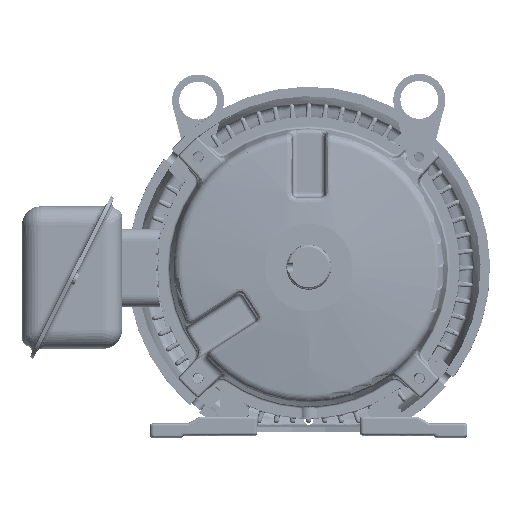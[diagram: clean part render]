
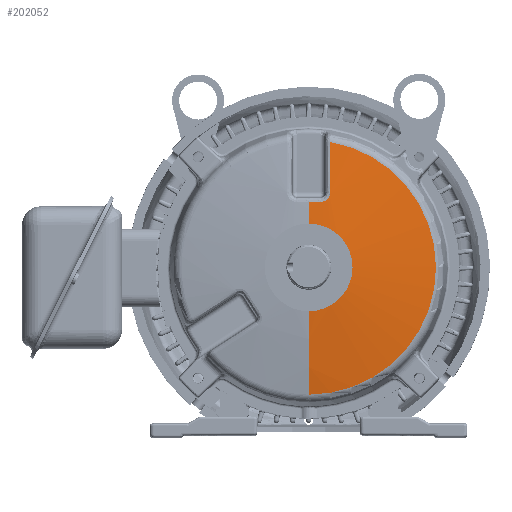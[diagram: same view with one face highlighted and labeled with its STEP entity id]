
A CAD part, top view. The second image highlights one B-rep face of the part: STEP entity #202052.
In plain terms, the highlighted spherical face has radius 533.4 mm.
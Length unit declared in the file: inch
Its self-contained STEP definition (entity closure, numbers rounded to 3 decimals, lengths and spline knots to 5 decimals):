
#190656=CARTESIAN_POINT('',(0.,0.,19.84313));
#190657=DIRECTION('',(-1.,0.,0.));
#190658=DIRECTION('',(0.,-0.055,-0.998));
#190659=AXIS2_PLACEMENT_3D('',#190656,#190657,#190658);
#190661=CARTESIAN_POINT('',(0.,0.,-1.125));
#190662=DIRECTION('',(0.,0.,1.));
#190663=DIRECTION('',(0.,1.,0.));
#190664=AXIS2_PLACEMENT_3D('',#190661,#190662,#190663);
#190666=CARTESIAN_POINT('',(0.,0.,19.84313));
#190667=DIRECTION('',(1.,0.,0.));
#190668=DIRECTION('',(0.,0.055,-0.998));
#190669=AXIS2_PLACEMENT_3D('',#190666,#190667,#190668);
#190671=CARTESIAN_POINT('',(-0.56293,3.30842,
-0.88698));
#190672=CARTESIAN_POINT('',(-0.56316,3.25217,
-0.89595));
#190673=CARTESIAN_POINT('',(-0.56364,3.13453,
-0.91424));
#190674=CARTESIAN_POINT('',(-0.56437,2.94373,
-0.94219));
#190675=CARTESIAN_POINT('',(-0.56512,2.73546,
-0.97066));
#190676=CARTESIAN_POINT('',(-0.56587,2.50758,
-0.99939));
#190677=CARTESIAN_POINT('',(-0.56662,2.25878,
-1.0279));
#190678=CARTESIAN_POINT('',(-0.56711,2.07471,
-1.04666));
#190679=CARTESIAN_POINT('',(-0.56735,1.97872,
-1.05574));
#190696=CARTESIAN_POINT('',(-0.56735,1.97872,
-1.05574));
#190697=CARTESIAN_POINT('',(-0.5674,1.95776,
-1.05772));
#190698=CARTESIAN_POINT('',(-0.56252,1.91767,
-1.06159));
#190699=CARTESIAN_POINT('',(-0.54089,1.86042,
-1.06733));
#190700=CARTESIAN_POINT('',(-0.50861,1.81309,
-1.0723));
#190701=CARTESIAN_POINT('',(-0.46841,1.77542,
-1.07646));
#190702=CARTESIAN_POINT('',(-0.42204,1.74774,
-1.07978));
#190703=CARTESIAN_POINT('',(-0.37063,1.73054,
-1.08218));
#190704=CARTESIAN_POINT('',(-0.3351,1.72659,
-1.08309));
#190705=CARTESIAN_POINT('',(-0.31666,1.72659,
-1.08337));
#190723=CARTESIAN_POINT('',(-0.31666,1.72659,
-1.08337));
#190724=CARTESIAN_POINT('',(-0.28144,1.72658,
-1.08391));
#190725=CARTESIAN_POINT('',(-0.21127,1.72655,
-1.0848));
#190726=CARTESIAN_POINT('',(-0.10538,1.72653,
-1.0856));
#190727=CARTESIAN_POINT('',(-0.03522,1.72653,
-1.08578));
#190728=CARTESIAN_POINT('',(0.,1.72653,-1.08578));
#190939=CARTESIAN_POINT('',(0.,0.,-0.88698));
#190940=DIRECTION('',(0.,0.,1.));
#190941=DIRECTION('',(-0.168,0.986,0.));
#190942=AXIS2_PLACEMENT_3D('',#190939,#190940,#190941);
#200919=CARTESIAN_POINT('',(0.,1.1565,-1.125));
#200920=CARTESIAN_POINT('',(0.,-1.1565,-1.125));
#200921=VERTEX_POINT('',#200919);
#200922=VERTEX_POINT('',#200920);
#201084=CARTESIAN_POINT('',(0.,-3.35597,-0.88698));
#201085=VERTEX_POINT('',#201084);
#201210=VERTEX_POINT('',#190671);
#201211=VERTEX_POINT('',#190679);
#201214=VERTEX_POINT('',#190705);
#201216=VERTEX_POINT('',#190728);
#202032=CARTESIAN_POINT('',(0.,0.,19.84313));
#202033=DIRECTION('',(0.,0.,-1.));
#202034=DIRECTION('',(0.,-1.,0.));
#202035=AXIS2_PLACEMENT_3D('',#202032,#202033,#202034);
#202036=SPHERICAL_SURFACE('',#202035,21.);
#202038=ORIENTED_EDGE('',*,*,#202037,.F.);
#202040=ORIENTED_EDGE('',*,*,#202039,.T.);
#202042=ORIENTED_EDGE('',*,*,#202041,.F.);
#202043=ORIENTED_EDGE('',*,*,#202019,.F.);
#202045=ORIENTED_EDGE('',*,*,#202044,.T.);
#202047=ORIENTED_EDGE('',*,*,#202046,.F.);
#202049=ORIENTED_EDGE('',*,*,#202048,.F.);
#202050=EDGE_LOOP('',(#202038,#202040,#202042,#202043,#202045,#202047,#202049));
#202051=FACE_OUTER_BOUND('',#202050,.F.);
#202052=ADVANCED_FACE('',(#202051),#202036,.T.);
#190660=CIRCLE('',#190659,21.);
#190665=CIRCLE('',#190664,1.1565);
#190670=CIRCLE('',#190669,21.);
#190680=B_SPLINE_CURVE_WITH_KNOTS('',3,(#190671,#190672,#190673,#190674,#190675,
#190676,#190677,#190678,#190679),.UNSPECIFIED.,.F.,.F.,(4,1,1,1,1,1,4),(0.,
0.16667,0.33333,0.5,0.66667,0.83333,
1.),.UNSPECIFIED.);
#190706=B_SPLINE_CURVE_WITH_KNOTS('',3,(#190696,#190697,#190698,#190699,#190700,
#190701,#190702,#190703,#190704,#190705),.UNSPECIFIED.,.F.,.F.,(4,1,1,1,1,1,1,
4),(0.,0.14286,0.28571,0.42857,
0.57143,0.71429,0.85714,1.),.UNSPECIFIED.);
#190729=B_SPLINE_CURVE_WITH_KNOTS('',3,(#190723,#190724,#190725,#190726,#190727,
#190728),.UNSPECIFIED.,.F.,.F.,(4,1,1,4),(0.,0.33333,
0.66667,1.),.UNSPECIFIED.);
#190943=CIRCLE('',#190942,3.35597);
#202019=EDGE_CURVE('',#200921,#200922,#190665,.T.);
#202037=EDGE_CURVE('',#201210,#201211,#190680,.T.);
#202039=EDGE_CURVE('',#201210,#201085,#190943,.T.);
#202041=EDGE_CURVE('',#200922,#201085,#190660,.T.);
#202044=EDGE_CURVE('',#200921,#201216,#190670,.T.);
#202046=EDGE_CURVE('',#201214,#201216,#190729,.T.);
#202048=EDGE_CURVE('',#201211,#201214,#190706,.T.);
